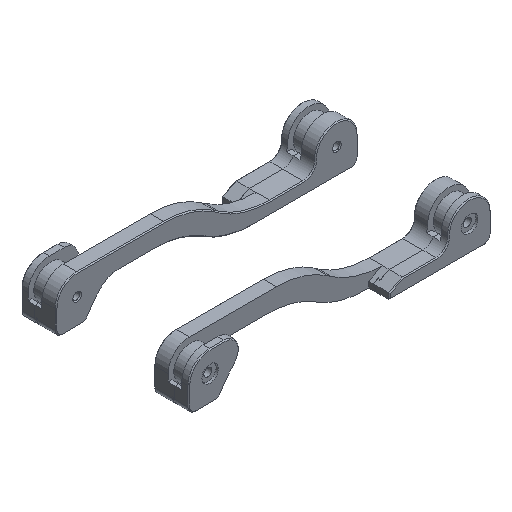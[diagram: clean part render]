
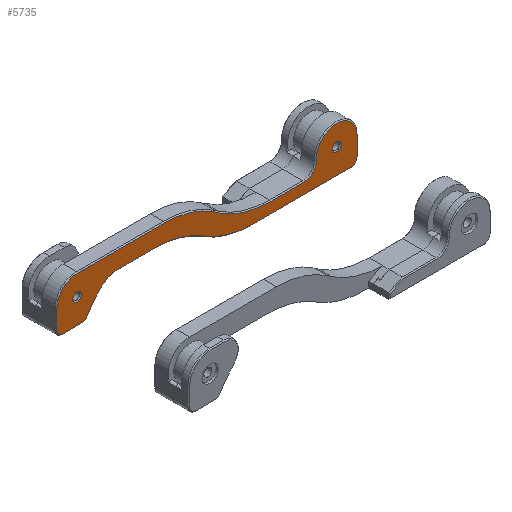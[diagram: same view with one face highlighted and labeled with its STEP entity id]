
A CAD part, isometric view. The second image highlights one B-rep face of the part: STEP entity #5735.
In plain terms, the highlighted planar face has unit normal (0, -1, 0) as drawn and (0, 0, 1) by its records, which use the part's own axes.
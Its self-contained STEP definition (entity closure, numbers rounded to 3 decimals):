
#192=FACE_BOUND('',#1059,.T.);
#193=FACE_BOUND('',#1060,.T.);
#338=PLANE('',#6462);
#661=FACE_OUTER_BOUND('',#1058,.T.);
#1058=EDGE_LOOP('',(#4903,#4904,#4905,#4906,#4907,#4908,#4909,#4910,#4911,
#4912,#4913,#4914,#4915,#4916,#4917,#4918,#4919,#4920,#4921,#4922,#4923));
#1059=EDGE_LOOP('',(#4924));
#1060=EDGE_LOOP('',(#4925));
#1514=LINE('',#9707,#2020);
#1515=LINE('',#9711,#2021);
#1516=LINE('',#9714,#2022);
#1517=LINE('',#9715,#2023);
#1518=LINE('',#9719,#2024);
#1519=LINE('',#9723,#2025);
#1520=LINE('',#9727,#2026);
#1521=LINE('',#9730,#2027);
#1522=LINE('',#9731,#2028);
#2020=VECTOR('',#7992,1000.);
#2021=VECTOR('',#7995,1000.);
#2022=VECTOR('',#7998,1000.);
#2023=VECTOR('',#7999,1000.);
#2024=VECTOR('',#8002,1000.);
#2025=VECTOR('',#8005,1000.);
#2026=VECTOR('',#8008,1000.);
#2027=VECTOR('',#8011,1000.);
#2028=VECTOR('',#8012,1000.);
#2406=CIRCLE('',#6442,2.6);
#2408=CIRCLE('',#6445,2.6);
#2409=CIRCLE('',#6447,8.6);
#2410=CIRCLE('',#6449,2.6);
#2411=CIRCLE('',#6451,10.4);
#2414=CIRCLE('',#6456,1.85);
#2417=CIRCLE('',#6461,1.85);
#2418=CIRCLE('',#6463,42.4);
#2419=CIRCLE('',#6464,38.4);
#2420=CIRCLE('',#6465,37.6);
#2421=CIRCLE('',#6466,5.4);
#2422=CIRCLE('',#6467,38.4);
#2423=CIRCLE('',#6468,37.6);
#2424=CIRCLE('',#6469,8.6);
#2839=VERTEX_POINT('',#9655);
#2840=VERTEX_POINT('',#9656);
#2841=VERTEX_POINT('',#9661);
#2842=VERTEX_POINT('',#9662);
#2843=VERTEX_POINT('',#9667);
#2844=VERTEX_POINT('',#9668);
#2845=VERTEX_POINT('',#9673);
#2846=VERTEX_POINT('',#9674);
#2847=VERTEX_POINT('',#9679);
#2848=VERTEX_POINT('',#9681);
#2851=VERTEX_POINT('',#9691);
#2854=VERTEX_POINT('',#9701);
#2855=VERTEX_POINT('',#9706);
#2856=VERTEX_POINT('',#9708);
#2857=VERTEX_POINT('',#9710);
#2858=VERTEX_POINT('',#9712);
#2859=VERTEX_POINT('',#9716);
#2860=VERTEX_POINT('',#9718);
#2861=VERTEX_POINT('',#9720);
#2862=VERTEX_POINT('',#9722);
#2863=VERTEX_POINT('',#9724);
#2864=VERTEX_POINT('',#9726);
#2865=VERTEX_POINT('',#9728);
#3540=EDGE_CURVE('',#2839,#2840,#2406,.T.);
#3543=EDGE_CURVE('',#2841,#2842,#2408,.T.);
#3546=EDGE_CURVE('',#2843,#2844,#2409,.T.);
#3549=EDGE_CURVE('',#2845,#2846,#2410,.T.);
#3553=EDGE_CURVE('',#2847,#2848,#2411,.T.);
#3559=EDGE_CURVE('',#2851,#2851,#2414,.T.);
#3564=EDGE_CURVE('',#2854,#2854,#2417,.T.);
#3565=EDGE_CURVE('',#2848,#2839,#2418,.T.);
#3566=EDGE_CURVE('',#2855,#2847,#1514,.T.);
#3567=EDGE_CURVE('',#2856,#2855,#2419,.T.);
#3568=EDGE_CURVE('',#2857,#2856,#1515,.T.);
#3569=EDGE_CURVE('',#2858,#2857,#2420,.T.);
#3570=EDGE_CURVE('',#2846,#2858,#1516,.T.);
#3571=EDGE_CURVE('',#2844,#2845,#1517,.T.);
#3572=EDGE_CURVE('',#2859,#2843,#2421,.T.);
#3573=EDGE_CURVE('',#2860,#2859,#1518,.T.);
#3574=EDGE_CURVE('',#2861,#2860,#2422,.T.);
#3575=EDGE_CURVE('',#2862,#2861,#1519,.T.);
#3576=EDGE_CURVE('',#2863,#2862,#2423,.T.);
#3577=EDGE_CURVE('',#2864,#2863,#1520,.T.);
#3578=EDGE_CURVE('',#2865,#2864,#2424,.T.);
#3579=EDGE_CURVE('',#2842,#2865,#1521,.T.);
#3580=EDGE_CURVE('',#2840,#2841,#1522,.T.);
#4903=ORIENTED_EDGE('',*,*,#3565,.F.);
#4904=ORIENTED_EDGE('',*,*,#3553,.F.);
#4905=ORIENTED_EDGE('',*,*,#3566,.F.);
#4906=ORIENTED_EDGE('',*,*,#3567,.F.);
#4907=ORIENTED_EDGE('',*,*,#3568,.F.);
#4908=ORIENTED_EDGE('',*,*,#3569,.F.);
#4909=ORIENTED_EDGE('',*,*,#3570,.F.);
#4910=ORIENTED_EDGE('',*,*,#3549,.F.);
#4911=ORIENTED_EDGE('',*,*,#3571,.F.);
#4912=ORIENTED_EDGE('',*,*,#3546,.F.);
#4913=ORIENTED_EDGE('',*,*,#3572,.F.);
#4914=ORIENTED_EDGE('',*,*,#3573,.F.);
#4915=ORIENTED_EDGE('',*,*,#3574,.F.);
#4916=ORIENTED_EDGE('',*,*,#3575,.F.);
#4917=ORIENTED_EDGE('',*,*,#3576,.F.);
#4918=ORIENTED_EDGE('',*,*,#3577,.F.);
#4919=ORIENTED_EDGE('',*,*,#3578,.F.);
#4920=ORIENTED_EDGE('',*,*,#3579,.F.);
#4921=ORIENTED_EDGE('',*,*,#3543,.F.);
#4922=ORIENTED_EDGE('',*,*,#3580,.F.);
#4923=ORIENTED_EDGE('',*,*,#3540,.F.);
#4924=ORIENTED_EDGE('',*,*,#3559,.F.);
#4925=ORIENTED_EDGE('',*,*,#3564,.F.);
#5735=ADVANCED_FACE('',(#661,#192,#193),#338,.T.);
#6442=AXIS2_PLACEMENT_3D('',#9657,#7935,#7936);
#6445=AXIS2_PLACEMENT_3D('',#9663,#7942,#7943);
#6447=AXIS2_PLACEMENT_3D('',#9669,#7948,#7949);
#6449=AXIS2_PLACEMENT_3D('',#9675,#7954,#7955);
#6451=AXIS2_PLACEMENT_3D('',#9682,#7961,#7962);
#6456=AXIS2_PLACEMENT_3D('',#9693,#7974,#7975);
#6461=AXIS2_PLACEMENT_3D('',#9703,#7986,#7987);
#6462=AXIS2_PLACEMENT_3D('',#9704,#7988,#7989);
#6463=AXIS2_PLACEMENT_3D('',#9705,#7990,#7991);
#6464=AXIS2_PLACEMENT_3D('',#9709,#7993,#7994);
#6465=AXIS2_PLACEMENT_3D('',#9713,#7996,#7997);
#6466=AXIS2_PLACEMENT_3D('',#9717,#8000,#8001);
#6467=AXIS2_PLACEMENT_3D('',#9721,#8003,#8004);
#6468=AXIS2_PLACEMENT_3D('',#9725,#8006,#8007);
#6469=AXIS2_PLACEMENT_3D('',#9729,#8009,#8010);
#7935=DIRECTION('center_axis',(0.,0.,-1.));
#7936=DIRECTION('ref_axis',(0.539,-0.842,0.));
#7942=DIRECTION('center_axis',(0.,0.,-1.));
#7943=DIRECTION('ref_axis',(-0.707,-0.707,0.));
#7948=DIRECTION('center_axis',(0.,0.,-1.));
#7949=DIRECTION('ref_axis',(-1.,0.,0.));
#7954=DIRECTION('center_axis',(0.,0.,-1.));
#7955=DIRECTION('ref_axis',(0.707,-0.707,0.));
#7961=DIRECTION('center_axis',(0.,0.,1.));
#7962=DIRECTION('ref_axis',(-0.395,0.919,0.));
#7974=DIRECTION('center_axis',(0.,0.,1.));
#7975=DIRECTION('ref_axis',(1.,0.,0.));
#7986=DIRECTION('center_axis',(0.,0.,1.));
#7987=DIRECTION('ref_axis',(1.,0.,0.));
#7988=DIRECTION('center_axis',(0.,0.,1.));
#7989=DIRECTION('ref_axis',(1.,0.,0.));
#7990=DIRECTION('center_axis',(0.,0.,1.));
#7991=DIRECTION('ref_axis',(-0.647,0.762,0.));
#7992=DIRECTION('',(-1.,0.,0.));
#7993=DIRECTION('center_axis',(0.,0.,1.));
#7994=DIRECTION('ref_axis',(0.531,0.847,0.));
#7995=DIRECTION('',(-0.847,0.531,0.));
#7996=DIRECTION('center_axis',(0.,0.,-1.));
#7997=DIRECTION('ref_axis',(-0.531,-0.847,0.));
#7998=DIRECTION('',(-1.,0.,0.));
#7999=DIRECTION('',(0.,-1.,0.));
#8000=DIRECTION('center_axis',(0.,0.,1.));
#8001=DIRECTION('ref_axis',(0.,-1.,0.));
#8002=DIRECTION('',(1.,0.,0.));
#8003=DIRECTION('center_axis',(0.,0.,1.));
#8004=DIRECTION('ref_axis',(-0.566,-0.825,0.));
#8005=DIRECTION('',(0.825,-0.566,0.));
#8006=DIRECTION('center_axis',(0.,0.,-1.));
#8007=DIRECTION('ref_axis',(0.566,0.825,0.));
#8008=DIRECTION('',(1.,0.,0.));
#8009=DIRECTION('center_axis',(0.,0.,-1.));
#8010=DIRECTION('ref_axis',(0.,1.,0.));
#8011=DIRECTION('',(0.,1.,0.));
#8012=DIRECTION('',(-1.,0.,0.));
#9655=CARTESIAN_POINT('',(-15.444,-8.969,14.8));
#9656=CARTESIAN_POINT('',(-17.815,-10.502,14.8));
#9657=CARTESIAN_POINT('Origin',(-17.815,-7.902,14.8));
#9661=CARTESIAN_POINT('',(-25.765,-10.502,14.8));
#9662=CARTESIAN_POINT('',(-28.365,-7.902,14.8));
#9663=CARTESIAN_POINT('Origin',(-25.765,-7.902,14.8));
#9667=CARTESIAN_POINT('',(81.644,-0.286,14.8));
#9668=CARTESIAN_POINT('',(98.835,0.098,14.8));
#9669=CARTESIAN_POINT('Origin',(90.235,0.098,14.8));
#9673=CARTESIAN_POINT('',(98.835,-7.902,14.8));
#9674=CARTESIAN_POINT('',(96.235,-10.502,14.8));
#9675=CARTESIAN_POINT('Origin',(96.235,-7.902,14.8));
#9679=CARTESIAN_POINT('',(-2.388,1.498,14.8));
#9681=CARTESIAN_POINT('',(-9.934,-1.745,14.8));
#9682=CARTESIAN_POINT('Origin',(-2.388,-8.902,14.8));
#9691=CARTESIAN_POINT('',(88.385,0.098,14.8));
#9693=CARTESIAN_POINT('Origin',(90.235,0.098,14.8));
#9701=CARTESIAN_POINT('',(-21.615,0.098,14.8));
#9703=CARTESIAN_POINT('Origin',(-19.765,0.098,14.8));
#9704=CARTESIAN_POINT('Origin',(35.235,-0.902,14.8));
#9705=CARTESIAN_POINT('Origin',(20.83,-30.922,14.8));
#9706=CARTESIAN_POINT('',(13.488,1.498,14.8));
#9707=CARTESIAN_POINT('',(14.443,1.498,14.8));
#9708=CARTESIAN_POINT('',(33.895,-4.373,14.8));
#9709=CARTESIAN_POINT('Origin',(13.488,-36.902,14.8));
#9710=CARTESIAN_POINT('',(34.499,-4.752,14.8));
#9711=CARTESIAN_POINT('',(33.594,-4.185,14.8));
#9712=CARTESIAN_POINT('',(54.482,-10.502,14.8));
#9713=CARTESIAN_POINT('Origin',(54.482,27.098,14.8));
#9714=CARTESIAN_POINT('',(44.858,-10.502,14.8));
#9715=CARTESIAN_POINT('',(98.835,-5.902,14.8));
#9716=CARTESIAN_POINT('',(76.249,-5.927,14.8));
#9717=CARTESIAN_POINT('Origin',(76.249,-0.527,14.8));
#9718=CARTESIAN_POINT('',(62.02,-5.927,14.8));
#9719=CARTESIAN_POINT('',(55.742,-5.927,14.8));
#9720=CARTESIAN_POINT('',(40.292,0.811,14.8));
#9721=CARTESIAN_POINT('Origin',(62.02,32.473,14.8));
#9722=CARTESIAN_POINT('',(38.413,2.101,14.8));
#9723=CARTESIAN_POINT('',(38.973,1.716,14.8));
#9724=CARTESIAN_POINT('',(17.138,8.698,14.8));
#9725=CARTESIAN_POINT('Origin',(17.138,-28.902,14.8));
#9726=CARTESIAN_POINT('',(-19.765,8.698,14.8));
#9727=CARTESIAN_POINT('',(26.186,8.698,14.8));
#9728=CARTESIAN_POINT('',(-28.365,0.098,14.8));
#9729=CARTESIAN_POINT('Origin',(-19.765,0.098,14.8));
#9730=CARTESIAN_POINT('',(-28.365,-0.402,14.8));
#9731=CARTESIAN_POINT('',(3.235,-10.502,14.8));
